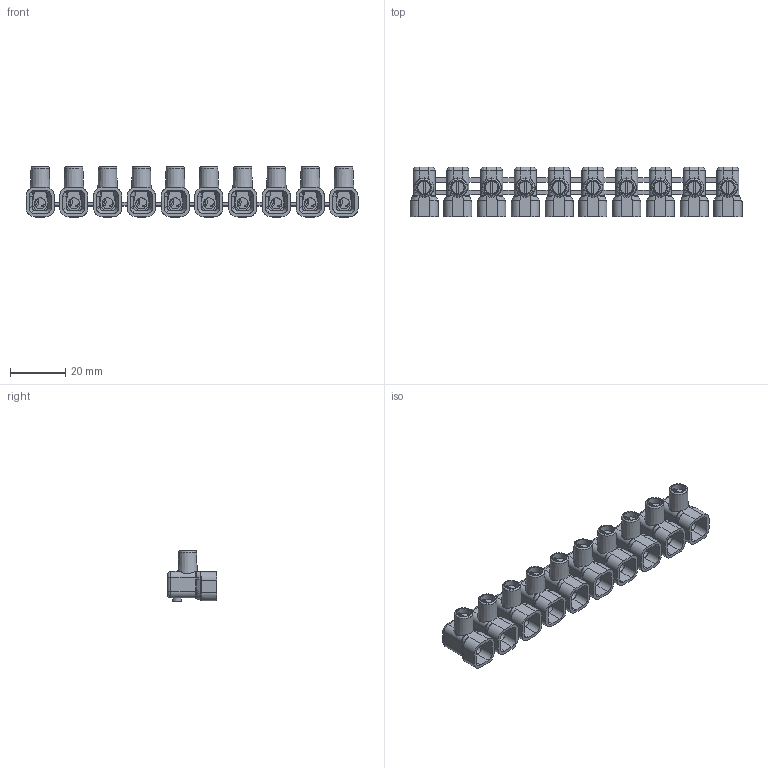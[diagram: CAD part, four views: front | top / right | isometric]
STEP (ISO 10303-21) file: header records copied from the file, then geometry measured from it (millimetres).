
FILE_DESCRIPTION(/* description */ (''),/* implementation_level */ '2;1');
FILE_NAME(/* name */ '4004725.stp',/* time_stamp */ '2019-03-01T15:41:52+01:00',/* author */ (''),/* organization */ (''),/* preprocessor_version */ 'ST-DEVELOPER v16.7',/* originating_system */ 'SIEMENS PLM Software NX 12.0',/* authorisation */ '');
FILE_SCHEMA (('AUTOMOTIVE_DESIGN { 1 0 10303 214 3 1 1 1 }'));
Length unit declared in the file: millimetre
Products named in the file (1): bsom23CC53FBpv7t
Bounding box: 120 x 17.85 x 18.3 mm (x, y, z)
Volume: 9728.2 mm3; surface area: 19010.9 mm2
Topology: 21 solids, 21 shells, 1898 faces, 4994 edges, 3166 vertices
Faces by surface type: plane 742, bspline 540, cylinder 536, torus 50, cone 30
Full cylindrical faces by diameter (mm): 2.7 x10, 3 x20, 3.5 x10, 4 x10, 4.5 x10, 5 x10
Entity records: 75399 total; most frequent: CARTESIAN_POINT 33419, ORIENTED_EDGE 9608, DIRECTION 7284, EDGE_CURVE 4804, VERTEX_POINT 3116, AXIS2_PLACEMENT_3D 2671, EDGE_LOOP 2144, LINE 1942
